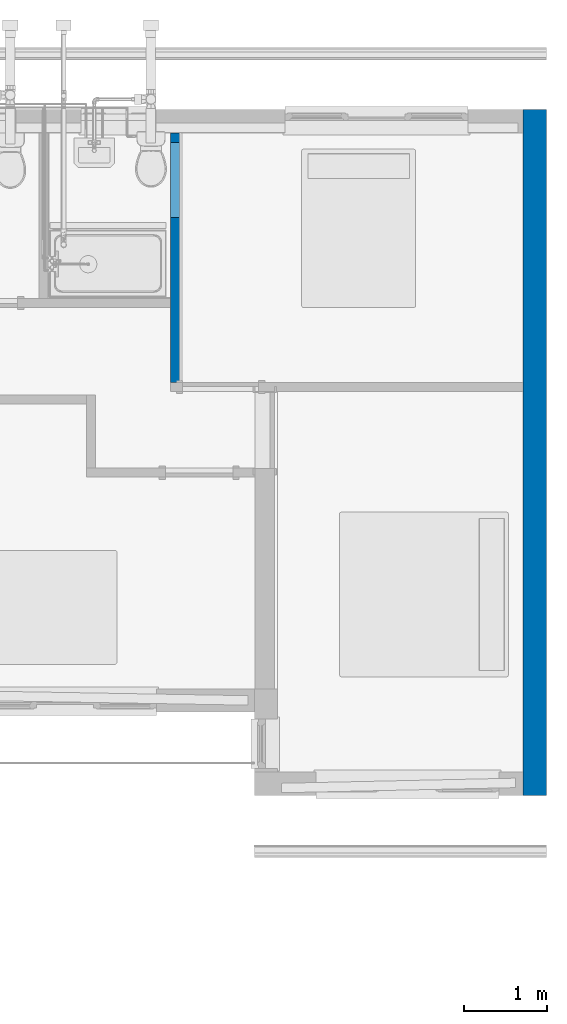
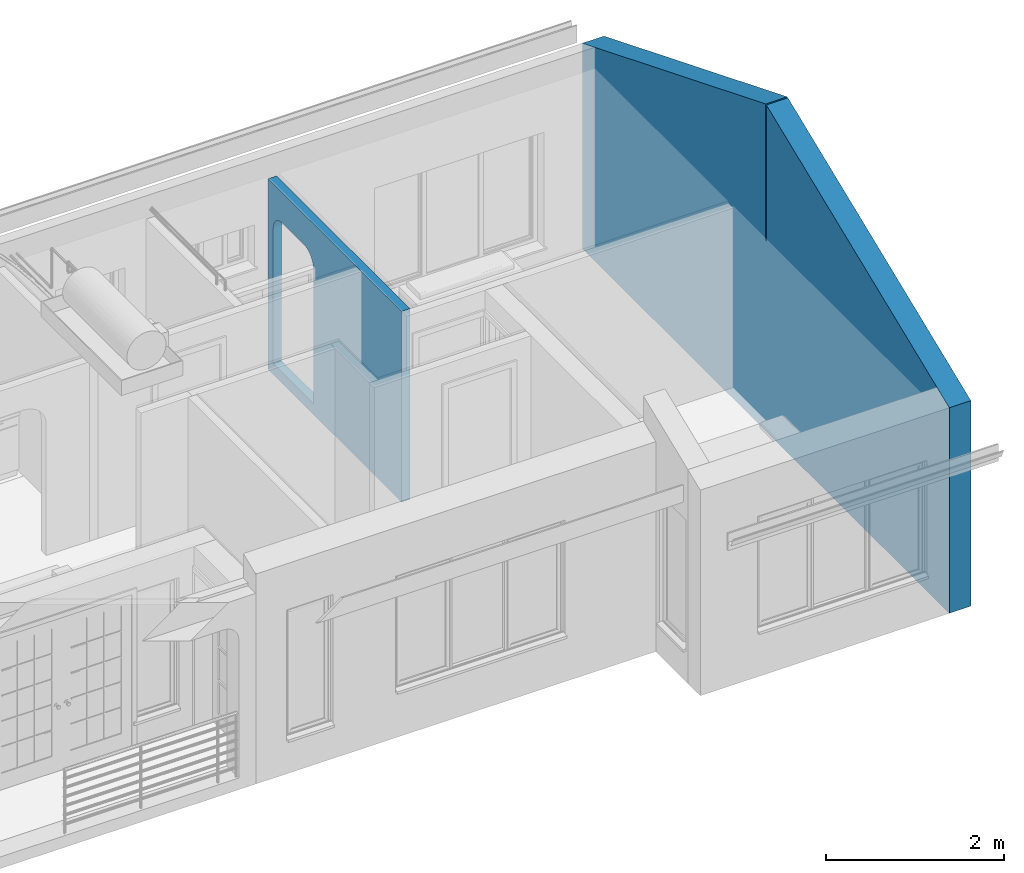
# One storey, part 7 of 41: 2 walls, 1 opening.
"""IFC2X3 building model written with IfcOpenShell, lengths in millimetres."""

from ifc_helpers import new_model, entity, si_unit, converted_unit, derived_unit, direction, frame, frame_2d, origin, place, context, subcontext, project, spatial, polyline, circle_curve, parameter, trimmed, segment, composite_curve, rectangle, outline, extrude, clip, bounded_halfspace, material, layer, layer_set, layer_usage, type_object, element, save


model = new_model("IFC2X3")

# Units and contexts
model_context = context("Model", 3, precision=0.01, world=origin(), true_north=direction((6.12303176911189e-17, 1.0)))
body_context = subcontext(model_context, "Body", "Model", "MODEL_VIEW")
ifc_project = project(units=[si_unit("LENGTHUNIT", "METRE", prefix="MILLI"), si_unit("AREAUNIT", "SQUARE_METRE"), si_unit("VOLUMEUNIT", "CUBIC_METRE"), converted_unit("PLANEANGLEUNIT", "DEGREE", entity("IfcRatioMeasure", 0.0174532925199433), si_unit("PLANEANGLEUNIT", "RADIAN"), dimensions=[0, 0, 0, 0, 0, 0, 0]), si_unit("MASSUNIT", "GRAM", prefix="KILO"), derived_unit("MASSDENSITYUNIT", [(si_unit("MASSUNIT", "GRAM", prefix="KILO"), 1), (si_unit("LENGTHUNIT", "METRE"), -3)]), si_unit("TIMEUNIT", "SECOND"), si_unit("FREQUENCYUNIT", "HERTZ"), si_unit("THERMODYNAMICTEMPERATUREUNIT", "DEGREE_CELSIUS"), derived_unit("THERMALTRANSMITTANCEUNIT", [(si_unit("MASSUNIT", "GRAM", prefix="KILO"), 1), (si_unit("THERMODYNAMICTEMPERATUREUNIT", "KELVIN"), -1), (si_unit("TIMEUNIT", "SECOND"), -3)]), derived_unit("VOLUMETRICFLOWRATEUNIT", [(si_unit("LENGTHUNIT", "METRE"), 3), (si_unit("TIMEUNIT", "SECOND"), -1)]), si_unit("ELECTRICCURRENTUNIT", "AMPERE"), si_unit("ELECTRICVOLTAGEUNIT", "VOLT"), si_unit("POWERUNIT", "WATT"), si_unit("FORCEUNIT", "NEWTON", prefix="KILO"), si_unit("ILLUMINANCEUNIT", "LUX"), si_unit("LUMINOUSFLUXUNIT", "LUMEN"), si_unit("LUMINOUSINTENSITYUNIT", "CANDELA"), derived_unit("USERDEFINED", [(si_unit("MASSUNIT", "GRAM", prefix="KILO"), -1), (si_unit("LENGTHUNIT", "METRE"), -2), (si_unit("TIMEUNIT", "SECOND"), 3), (si_unit("LUMINOUSFLUXUNIT", "LUMEN"), 1)]), derived_unit("LINEARVELOCITYUNIT", [(si_unit("LENGTHUNIT", "METRE"), 1), (si_unit("TIMEUNIT", "SECOND"), -1)]), si_unit("PRESSUREUNIT", "PASCAL"), derived_unit("USERDEFINED", [(si_unit("LENGTHUNIT", "METRE"), -2), (si_unit("MASSUNIT", "GRAM", prefix="KILO"), 1), (si_unit("TIMEUNIT", "SECOND"), -2)])], contexts=[model_context])

# Site, building, storey
site_placement = place(None, origin())
site = spatial("IfcSite", under=ifc_project, at=site_placement, Name="Surface", CompositionType="ELEMENT")
building_placement = place(site_placement, origin())
building = spatial("IfcBuilding", under=site, at=building_placement, CompositionType="ELEMENT")
storey_placement = place(building_placement, frame((0.0, 0.0, 300.0)))
storey = spatial("IfcBuildingStorey", under=building, at=storey_placement, Name="F.F.L", CompositionType="ELEMENT", Elevation=300.0)

# Wall
ifc_material_1 = material(Name="Brickwork - Facebrick (Plettenberg Autumn)")
ifc_layer_1 = layer(ifc_material_1, 110.0)
ifc_material_2 = material(Name="Air Infiltration Barrier")
ifc_layer_2 = layer(ifc_material_2, 50.0)
ifc_material_3 = material(Name="Brickwork - 110mm (Stock)")
ifc_layer_3 = layer(ifc_material_3, 110.0)
ifc_material_4 = material(Name="Plaster")
ifc_layer_4 = layer(ifc_material_4, 10.0)
ifc_layer_set_1 = layer_set([ifc_layer_1, ifc_layer_2, ifc_layer_3, ifc_layer_4], Name="Basic Wall:BrickWall - 270mm (Ext.F&Int.S)")
ifc_layer_usage_1 = layer_usage(ifc_layer_set_1, "AXIS2", "NEGATIVE", 140.0)
wall_type_1 = type_object("IfcWallType", Name="Basic Wall:BrickWall - 270mm (Ext.F&Int.S)", PredefinedType="STANDARD", material=ifc_layer_set_1)
wall_1_placement = place(storey_placement, frame((3323.1248299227, 10825.8400891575, -150.0), z_axis=(0.0, 0.0, 1.0), x_axis=(0.0, -1.0, 0.0)))
element("IfcWallStandardCase", 1, at=wall_1_placement, inside=storey, type_object=wall_type_1, material=ifc_layer_usage_1, Name="Basic Wall:BrickWall - 270mm (Ext.F&Int.S)", ObjectType="Basic Wall:BrickWall - 270mm (Ext.F&Int.S)", context=body_context, shape_type="Clipping", body=[
    clip(clip(clip(extrude(rectangle(XDim=8244.99999999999, YDim=280.0, at=frame_2d((4122.49999999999, 0.0), x_axis=(-1.0, 0.0))), origin(), (0.0, 0.0, 1.0), 4485.07134488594), bounded_halfspace(frame((0.0, -140.0, 2820.28006946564), z_axis=(-0.374606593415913, 0.0, 0.927183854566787), x_axis=(0.0, -1.0, 0.0)), False, frame((0.0, -140.0, 2820.28006946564)), polyline([(0.0, 0.0), (280.0, 0.0), (4120.50299947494, 0.0), (4120.50299947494, 280.0), (0.0, 280.0), (0.0, 0.0)]))), bounded_halfspace(frame((4134.28597752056, -140.0, 4480.51093790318), z_axis=(0.374606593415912, 0.0, 0.927183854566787), x_axis=(0.0, 1.0, 0.0)), False, frame((4134.28597752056, -140.0, 4480.51093790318)), polyline([(0.0, 0.0), (3830.71402247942, 0.0), (4110.71402247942, 0.0), (4110.71402247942, 280.0), (0.0, 280.0), (0.0, 0.0)]))), bounded_halfspace(frame((4120.50299947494, -140.0, 2615.0), z_axis=(0.0, 0.0, 1.0), x_axis=(0.0, 1.0, 0.0)), False, frame((4120.50299947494, -140.0, 2615.0)), polyline([(0.0, 0.0), (13.7829780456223, 0.0), (13.7829780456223, 280.0), (0.0, 280.0), (0.0, 0.0)]))),
])

# Wall, opening
ifc_layer_5 = layer(ifc_material_1, 110.0)
ifc_layer_set_2 = layer_set([ifc_layer_5], Name="Basic Wall:BrickWall - 110mm (Ext.F&Int.F)")
ifc_layer_usage_2 = layer_usage(ifc_layer_set_2, "AXIS2", "NEGATIVE", 55.0)
wall_type_2 = type_object("IfcWallType", Name="Basic Wall:BrickWall - 110mm (Ext.F&Int.F)", PredefinedType="STANDARD", material=ifc_layer_set_2)
wall_2_placement = place(storey_placement, frame((-1001.8751700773, 7545.84008915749, -150.0), z_axis=(0.0, 0.0, 1.0), x_axis=(0.0, 1.0, 0.0)))
wall_2 = element("IfcWallStandardCase", 2, at=wall_2_placement, inside=storey, type_object=wall_type_2, material=ifc_layer_usage_2, Name="Basic Wall:BrickWall - 110mm (Ext.F&Int.F)", ObjectType="Basic Wall:BrickWall - 110mm (Ext.F&Int.F)", context=body_context, shape_type="SweptSolid", body=[
    extrude(rectangle(XDim=3000.0, YDim=110.0, at=frame_2d((1500.0, 2.48689957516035e-14), x_axis=(-1.0, 0.0))), origin(), (0.0, 0.0, 1.0), 2615.0),
])
opening_placement = place(wall_2_placement, origin())
element("IfcOpeningElement", 3, at=opening_placement, cuts=wall_2, Name="Basic Wall:BrickWall - 110mm (Ext.F&Int.F)", ObjectType="Opening", context=body_context, shape_type="SweptSolid", body=[
    extrude(outline(composite_curve([segment(polyline([(-1299.99673035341, -450.0), (549.99836517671, -450.0)]), True, "CONTINUOUS"), segment(trimmed(circle_curve(frame_2d((549.998365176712, -250.0), x_axis=(0.0, 1.0)), 199.999999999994), [parameter(180.0)], [parameter(270.0)], True, "PARAMETER"), True, "CONTINUOUS"), segment(polyline([(749.998365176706, -250.0), (749.998365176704, 250.0)]), True, "CONTINUOUS"), segment(trimmed(circle_curve(frame_2d((549.998365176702, 250.0), x_axis=(0.0, 1.0)), 200.000000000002), [parameter(270.0)], [parameter(0.0)], True, "PARAMETER"), True, "CONTINUOUS"), segment(polyline([(549.998365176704, 450.0), (-1299.99673035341, 450.0)]), True, "CONTINUOUS"), segment(polyline([(-1299.99673035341, 450.0), (-1299.99673035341, -450.0)]), True, "CONTINUOUS")], self_intersect=False)), frame((2432.61996818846, 55.0, 1449.99673035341), z_axis=(0.0, -1.0, 0.0), x_axis=(0.0, 0.0, 1.0)), (0.0, 0.0, 1.0), 110.0),
])

save(model, "model.ifc")
